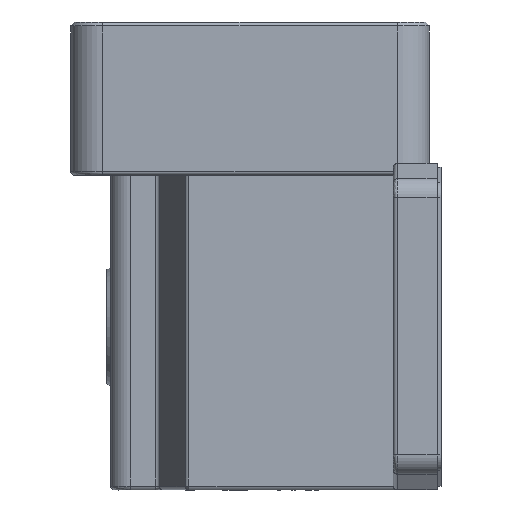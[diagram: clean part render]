
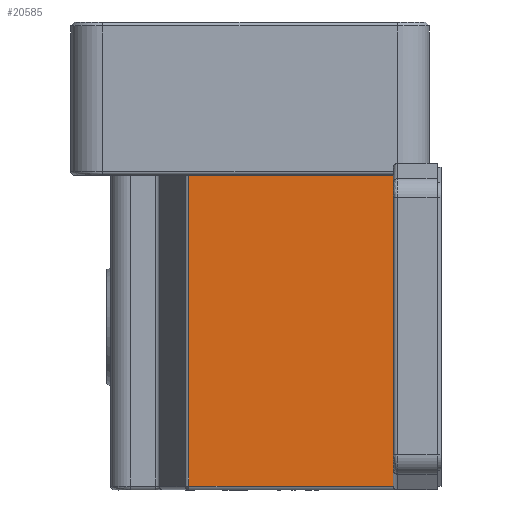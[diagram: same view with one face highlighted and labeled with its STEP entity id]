
A CAD part, front view. The second image highlights one B-rep face of the part: STEP entity #20585.
In plain terms, the highlighted planar face has unit normal (0, -1, 0).
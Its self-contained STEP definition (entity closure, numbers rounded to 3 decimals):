
#274 = CARTESIAN_POINT ( 'NONE',  ( 36.001, -41., -117. ) ) ;
#1009 = B_SPLINE_CURVE_WITH_KNOTS ( 'NONE', 3,
 ( #16791, #31415, #27293, #27094 ),
 .UNSPECIFIED., .F., .F.,
 ( 4, 4 ),
 ( 0., 1. ),
 .UNSPECIFIED. ) ;
#2031 = DIRECTION ( 'NONE',  ( 0., 1., 0. ) ) ;
#2181 = ORIENTED_EDGE ( 'NONE', *, *, #30893, .F. ) ;
#2366 = VECTOR ( 'NONE', #19482, 1000. ) ;
#3086 = EDGE_CURVE ( 'NONE', #23828, #26649, #23895, .T. ) ;
#3231 = DIRECTION ( 'NONE',  ( -1., 0., 0. ) ) ;
#4739 = DIRECTION ( 'NONE',  ( 0., 0., 1. ) ) ;
#4867 = VECTOR ( 'NONE', #3231, 1000. ) ;
#4876 = EDGE_CURVE ( 'NONE', #24068, #23828, #22721, .T. ) ;
#5468 = LINE ( 'NONE', #22365, #2366 ) ;
#6638 = FACE_OUTER_BOUND ( 'NONE', #14547, .T. ) ;
#7181 = LINE ( 'NONE', #7671, #4867 ) ;
#7671 = CARTESIAN_POINT ( 'NONE',  ( -35., -41., -117. ) ) ;
#8347 = EDGE_CURVE ( 'NONE', #10979, #17885, #1009, .T. ) ;
#8938 = PLANE ( 'NONE',  #28339 ) ;
#9047 = CARTESIAN_POINT ( 'NONE',  ( -35., -41., -39. ) ) ;
#9808 = EDGE_CURVE ( 'NONE', #26649, #10979, #5468, .T. ) ;
#10979 = VERTEX_POINT ( 'NONE', #13761 ) ;
#13177 = DIRECTION ( 'NONE',  ( 1., 0., 0. ) ) ;
#13761 = CARTESIAN_POINT ( 'NONE',  ( 36., -41., -116.962 ) ) ;
#14547 = EDGE_LOOP ( 'NONE', ( #2181, #29581, #16185, #16916, #16253 ) ) ;
#16185 = ORIENTED_EDGE ( 'NONE', *, *, #9808, .F. ) ;
#16253 = ORIENTED_EDGE ( 'NONE', *, *, #4876, .F. ) ;
#16791 = CARTESIAN_POINT ( 'NONE',  ( 36., -41., -116.962 ) ) ;
#16916 = ORIENTED_EDGE ( 'NONE', *, *, #3086, .F. ) ;
#17104 = DIRECTION ( 'NONE',  ( 0., 0., 1. ) ) ;
#17885 = VERTEX_POINT ( 'NONE', #274 ) ;
#19482 = DIRECTION ( 'NONE',  ( 0., 0., -1. ) ) ;
#20585 = ADVANCED_FACE ( 'NONE', ( #6638 ), #8938, .F. ) ;
#21572 = VECTOR ( 'NONE', #13177, 1000. ) ;
#21949 = CARTESIAN_POINT ( 'NONE',  ( -15.338, -41., -39. ) ) ;
#22365 = CARTESIAN_POINT ( 'NONE',  ( 36., -41., -44.524 ) ) ;
#22721 = LINE ( 'NONE', #21949, #27775 ) ;
#22989 = CARTESIAN_POINT ( 'NONE',  ( -37., -41., -39. ) ) ;
#23828 = VERTEX_POINT ( 'NONE', #24880 ) ;
#23895 = LINE ( 'NONE', #22989, #21572 ) ;
#24068 = VERTEX_POINT ( 'NONE', #25542 ) ;
#24385 = CARTESIAN_POINT ( 'NONE',  ( 36., -41., -39. ) ) ;
#24880 = CARTESIAN_POINT ( 'NONE',  ( -15.338, -41., -39. ) ) ;
#25542 = CARTESIAN_POINT ( 'NONE',  ( -15.338, -41., -117. ) ) ;
#26649 = VERTEX_POINT ( 'NONE', #24385 ) ;
#27094 = CARTESIAN_POINT ( 'NONE',  ( 36.001, -41., -117. ) ) ;
#27293 = CARTESIAN_POINT ( 'NONE',  ( 36., -41., -116.987 ) ) ;
#27775 = VECTOR ( 'NONE', #17104, 1000. ) ;
#28339 = AXIS2_PLACEMENT_3D ( 'NONE', #9047, #2031, #4739 ) ;
#29581 = ORIENTED_EDGE ( 'NONE', *, *, #8347, .F. ) ;
#30893 = EDGE_CURVE ( 'NONE', #17885, #24068, #7181, .T. ) ;
#31415 = CARTESIAN_POINT ( 'NONE',  ( 36., -41., -116.975 ) ) ;
